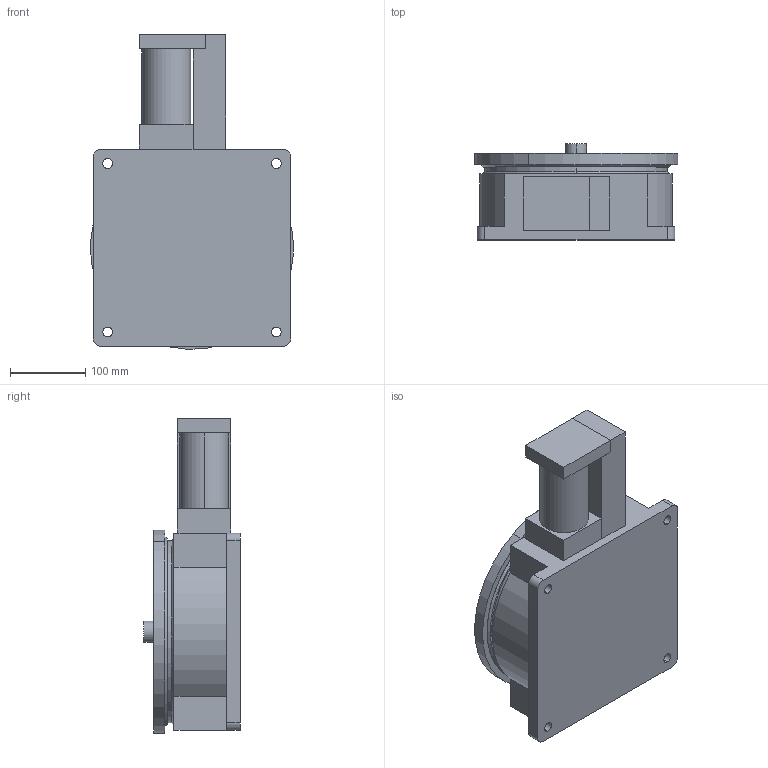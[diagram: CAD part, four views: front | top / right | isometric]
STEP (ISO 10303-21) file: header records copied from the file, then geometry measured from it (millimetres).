
FILE_DESCRIPTION (( 'STEP AP203' ), '1' );
FILE_NAME ('grp 270.STEP', '2014-02-25T07:03:23', ( '' ), ( '' ), 'SwSTEP 2.0', 'SolidWorks 2010', '' );
FILE_SCHEMA (( 'CONFIG_CONTROL_DESIGN' ));
Length unit declared in the file: millimetre
Products named in the file (3): grp 270 plateau; grp 270; grp 270 corp
Assembly tree (2 placements, depth 2):
  grp 270
    grp 270 corp
    grp 270 plateau
Bounding box: 269.77 x 128 x 417.88 mm (x, y, z)
Volume: 7761431.3 mm3; surface area: 453165.9 mm2
Topology: 3 solids, 3 shells, 84 faces, 206 edges, 136 vertices
Faces by surface type: cylinder 42, plane 38, cone 4
Entity records: 2853 total; most frequent: DIRECTION 472, CARTESIAN_POINT 431, ORIENTED_EDGE 412, EDGE_CURVE 206, AXIS2_PLACEMENT_3D 177, VERTEX_POINT 136, LINE 118, VECTOR 118
